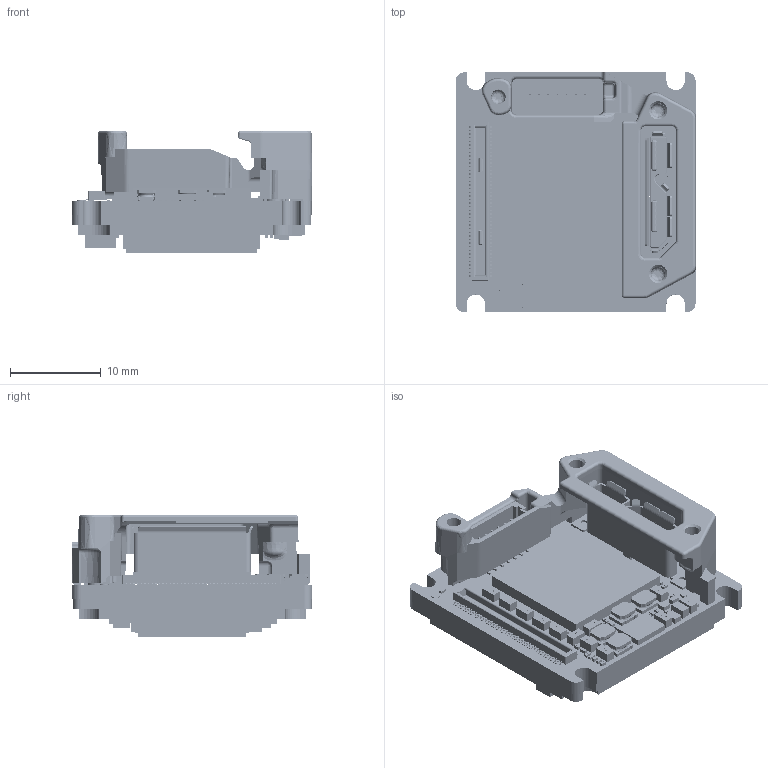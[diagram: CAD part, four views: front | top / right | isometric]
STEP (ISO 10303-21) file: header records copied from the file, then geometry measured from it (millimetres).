
FILE_DESCRIPTION (( 'STEP AP214' ), '1' );
FILE_NAME ('Alvium-USB180-Bare-Board-IMX226.STEP', '2022-12-21T11:43:58', ( '' ), ( '' ), 'SwSTEP 2.0', 'SolidWorks 2021', '' );
FILE_SCHEMA (( 'AUTOMOTIVE_DESIGN' ));
Length unit declared in the file: millimetre
Products named in the file (1): Alvium-USB180-Bare-Board-IMX226
Bounding box: 26.48 x 26.45 x 13.47 mm (x, y, z)
Volume: 3886.9 mm3; surface area: 5758.4 mm2
Topology: 173 solids, 173 shells, 9875 faces, 25038 edges, 16369 vertices
Faces by surface type: plane 4799, bspline 3976, cylinder 996, cone 46, torus 40, sphere 18
Entity records: 627545 total; most frequent: CARTESIAN_POINT 305579, ORIENTED_EDGE 50058, DIRECTION 30799, EDGE_CURVE 25029, VERTEX_POINT 16369, VECTOR 14849, LINE 14849, EDGE_LOOP 10760
